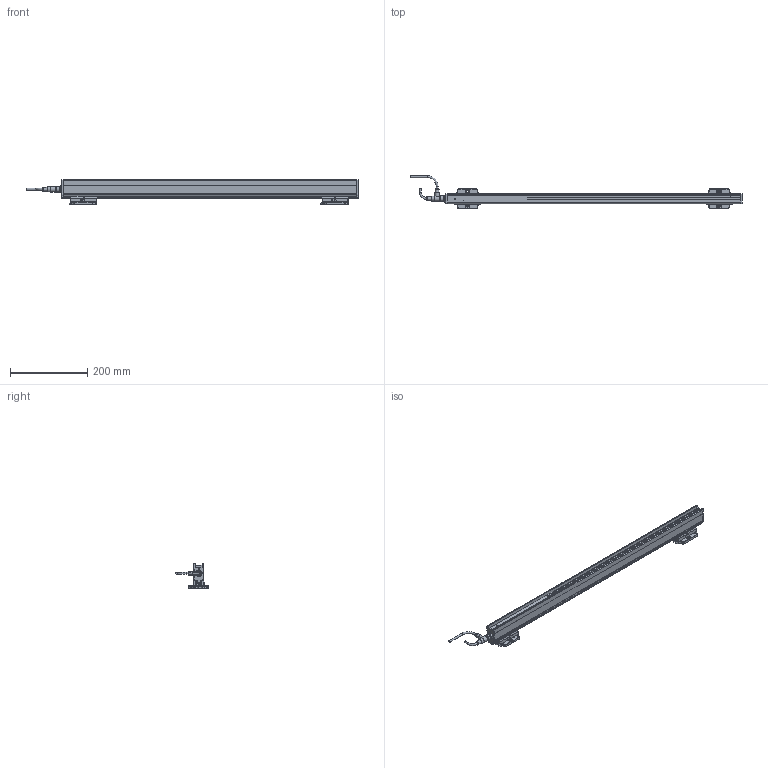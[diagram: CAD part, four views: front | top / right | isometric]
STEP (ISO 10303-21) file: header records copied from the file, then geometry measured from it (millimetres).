
FILE_DESCRIPTION(('Bauteilbeschreibung','HiCAD-Model','HiCAD-STEP-TRANSLATION','Bauteilbeschreibung'),'2;1');
FILE_NAME('PERFORMAXIQEASY_690-780_3D.STP','2014-03-05T11:25:03+00:00',('Konstrukteur'),('Konstrukteur Firma GmbH'),' HiCAD 2011, Step 1600.0 ','HiCAD 2011','confidential');
FILE_SCHEMA(('AUTOMOTIVE_DESIGN { 1 2 10303 214 0 1 1 1 }'));
Products named in the file (38): PERFORMAXIQEASY_690_780_3D; A_PERFORMAX IQ EASY 690_780; A_PERFORMAX IQ EASY SPEED; A_CAP DE; A_CAP CE_5; GROUP; PIN; GROUP0; PIN0; LED_2C_3MM; LED02C03MM; A519020315_CONNECTOR APPLIANCE; A_INSERT; A_CONTACTS; A_HOUSING; A_PROFILE; A_POTTING; A532000100_BRACKET BARS_ MOUNT; A_SIDE PIECE; A0SIDE0PIECE; A_BRACKET SMALL; A_SLIDE PIECE; A5320001000BRACKET0BARS00MOUNT; A0SIDE0PIECE0; A0SIDE0PIECE1; A0BRACKET0SMALL; A0SLIDE0PIECE; A_CONNECTOR STRAIGHT; EXTRUDED SOLID_0; DRAAD GEBOGEN; REVOLVED SOLID_1; REVOLVED SOLID_3; A_CONNECTOR ANGLED; REVOLVED0SOLID01; EXTRUDED0SOLID00; C_EDGE SWEEP_0; REVOLVED SOLID_2; REVOLVED0SOLID03
Assembly tree (37 placements, depth 5):
  PERFORMAXIQEASY_690_780_3D
    A_PERFORMAX IQ EASY 690_780
      A_PERFORMAX IQ EASY SPEED
        A_CAP DE
        A_CAP CE_5
        GROUP
          PIN
        GROUP0
          PIN0
        LED_2C_3MM
        LED02C03MM
        A519020315_CONNECTOR APPLIANCE
          A_INSERT
          A_CONTACTS
          A_HOUSING
        A_PROFILE
        A_POTTING
      A532000100_BRACKET BARS_ MOUNT
        A_SIDE PIECE
        A0SIDE0PIECE
        A_BRACKET SMALL
        A_SLIDE PIECE
      A5320001000BRACKET0BARS00MOUNT
        A0SIDE0PIECE0
        A0SIDE0PIECE1
        A0BRACKET0SMALL
        A0SLIDE0PIECE
      A_CONNECTOR STRAIGHT
        EXTRUDED SOLID_0
        DRAAD GEBOGEN
        REVOLVED SOLID_1
        REVOLVED SOLID_3
      A_CONNECTOR ANGLED
        REVOLVED0SOLID01
        EXTRUDED0SOLID00
        C_EDGE SWEEP_0
        REVOLVED SOLID_2
        REVOLVED0SOLID03
Bounding box: 857.89 x 84.28 x 63.13 mm (x, y, z)
Volume: 822494.9 mm3; surface area: 223050 mm2
Topology: 33 solids, 33 shells, 1911 faces, 4879 edges, 2932 vertices
Faces by surface type: cylinder 777, plane 751, sphere 112, torus 111, bspline 88, cone 72
Full cylindrical faces by diameter (mm): 0.8 x10, 1 x5, 2.387 x4, 3 x11, 3.1 x1, 4.2 x2, 5 x4, 5.5 x10, 8 x2, 8.2 x1, 8.4 x2, 8.945 x1, 9 x2, 10.2 x1, 10.5 x3, 11 x1, 12 x3, 12.8 x1, 13.8 x4, 14.5 x3
Entity records: 87383 total; most frequent: CARTESIAN_POINT 19760, DIRECTION 9521, ORIENTED_EDGE 9176, EDGE_CURVE 4588, COLOUR_RGB 4377, PRESENTATION_STYLE_ASSIGNMENT 4377, OVER_RIDING_STYLED_ITEM 4349, CURVE_STYLE 4344
